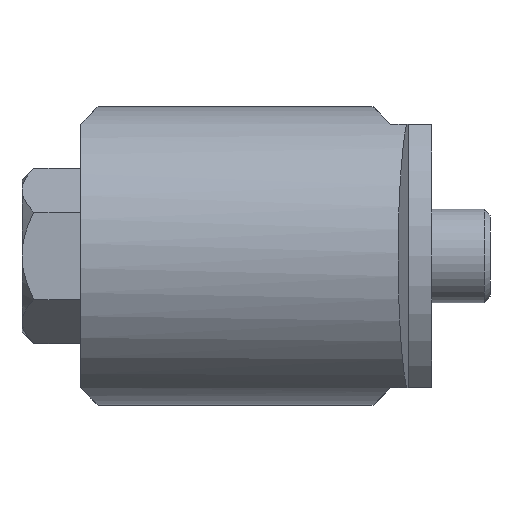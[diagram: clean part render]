
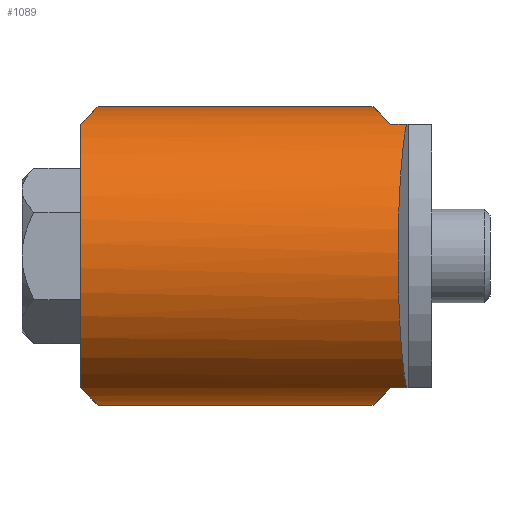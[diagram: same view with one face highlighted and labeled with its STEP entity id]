
A CAD part, left-side view. The second image highlights one B-rep face of the part: STEP entity #1089.
In plain terms, the highlighted cylindrical face has radius 12.75 mm (diameter 25.5 mm), a partial arc.
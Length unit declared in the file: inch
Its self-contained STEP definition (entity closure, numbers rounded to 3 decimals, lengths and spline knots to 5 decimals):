
#25=ELLIPSE('',#1209,0.70989,0.50197);
#26=ELLIPSE('',#1212,0.70989,0.50197);
#27=ELLIPSE('',#1215,0.70989,0.50197);
#28=ELLIPSE('',#1217,0.70989,0.50197);
#29=ELLIPSE('',#1221,0.50473,0.50197);
#122=FACE_OUTER_BOUND('',#190,.T.);
#190=EDGE_LOOP('',(#817,#818,#819,#820,#821,#822,#823,#824,#825,#826));
#244=LINE('',#1749,#306);
#257=LINE('',#1779,#319);
#266=LINE('',#1804,#328);
#267=LINE('',#1806,#329);
#306=VECTOR('',#1431,0.3937);
#319=VECTOR('',#1450,0.3937);
#328=VECTOR('',#1477,0.3937);
#329=VECTOR('',#1480,0.3937);
#396=CIRCLE('',#1223,0.50197);
#464=VERTEX_POINT('',#1739);
#465=VERTEX_POINT('',#1740);
#468=VERTEX_POINT('',#1748);
#473=VERTEX_POINT('',#1760);
#474=VERTEX_POINT('',#1761);
#481=VERTEX_POINT('',#1776);
#482=VERTEX_POINT('',#1778);
#484=VERTEX_POINT('',#1784);
#486=VERTEX_POINT('',#1790);
#487=VERTEX_POINT('',#1791);
#580=EDGE_CURVE('',#464,#465,#25,.T.);
#584=EDGE_CURVE('',#465,#468,#244,.T.);
#590=EDGE_CURVE('',#473,#474,#26,.T.);
#598=EDGE_CURVE('',#482,#481,#257,.T.);
#601=EDGE_CURVE('',#481,#484,#27,.T.);
#604=EDGE_CURVE('',#486,#487,#28,.T.);
#610=EDGE_CURVE('',#468,#482,#29,.T.);
#611=EDGE_CURVE('',#484,#486,#266,.T.);
#612=EDGE_CURVE('',#473,#487,#396,.T.);
#613=EDGE_CURVE('',#464,#474,#267,.T.);
#817=ORIENTED_EDGE('',*,*,#580,.T.);
#818=ORIENTED_EDGE('',*,*,#584,.T.);
#819=ORIENTED_EDGE('',*,*,#610,.T.);
#820=ORIENTED_EDGE('',*,*,#598,.T.);
#821=ORIENTED_EDGE('',*,*,#601,.T.);
#822=ORIENTED_EDGE('',*,*,#611,.T.);
#823=ORIENTED_EDGE('',*,*,#604,.T.);
#824=ORIENTED_EDGE('',*,*,#612,.F.);
#825=ORIENTED_EDGE('',*,*,#590,.T.);
#826=ORIENTED_EDGE('',*,*,#613,.F.);
#985=CYLINDRICAL_SURFACE('',#1222,0.50197);
#1089=ADVANCED_FACE('',(#122),#985,.T.);
#1209=AXIS2_PLACEMENT_3D('',#1741,#1424,#1425);
#1212=AXIS2_PLACEMENT_3D('',#1762,#1439,#1440);
#1215=AXIS2_PLACEMENT_3D('',#1785,#1455,#1456);
#1217=AXIS2_PLACEMENT_3D('',#1792,#1461,#1462);
#1221=AXIS2_PLACEMENT_3D('',#1802,#1473,#1474);
#1222=AXIS2_PLACEMENT_3D('',#1803,#1475,#1476);
#1223=AXIS2_PLACEMENT_3D('',#1805,#1478,#1479);
#1424=DIRECTION('center_axis',(0.,0.707,0.707));
#1425=DIRECTION('ref_axis',(0.,-0.707,0.707));
#1431=DIRECTION('',(0.,-1.,0.));
#1439=DIRECTION('center_axis',(0.,-0.707,0.707));
#1440=DIRECTION('ref_axis',(0.,0.707,0.707));
#1450=DIRECTION('',(0.,1.,0.));
#1455=DIRECTION('center_axis',(0.,0.707,-0.707));
#1456=DIRECTION('ref_axis',(0.,0.707,0.707));
#1461=DIRECTION('center_axis',(0.,-0.707,-0.707));
#1462=DIRECTION('ref_axis',(0.,-0.707,0.707));
#1473=DIRECTION('center_axis',(0.105,0.995,0.));
#1474=DIRECTION('ref_axis',(-0.995,0.105,0.));
#1475=DIRECTION('center_axis',(0.,-1.,0.));
#1476=DIRECTION('ref_axis',(0.,0.,1.));
#1477=DIRECTION('',(0.,1.,0.));
#1478=DIRECTION('center_axis',(0.,1.,0.));
#1479=DIRECTION('ref_axis',(0.,0.,1.));
#1480=DIRECTION('',(0.,1.,0.));
#1739=CARTESIAN_POINT('',(-1.86193,0.66872,-0.02886));
#1740=CARTESIAN_POINT('',(-2.09815,0.60966,0.03019));
#1741=CARTESIAN_POINT('Origin',(-1.86193,0.16675,0.4731));
#1748=CARTESIAN_POINT('',(-2.09815,0.5562,0.03019));
#1749=CARTESIAN_POINT('',(-2.09815,1.65297,0.03019));
#1760=CARTESIAN_POINT('',(-2.09815,1.65297,0.03019));
#1761=CARTESIAN_POINT('',(-1.86193,1.59392,-0.02886));
#1762=CARTESIAN_POINT('Origin',(-1.86193,2.09589,0.4731));
#1776=CARTESIAN_POINT('',(-2.09815,0.60966,0.91602));
#1778=CARTESIAN_POINT('',(-2.09815,0.5562,0.91602));
#1779=CARTESIAN_POINT('',(-2.09815,1.65297,0.91602));
#1784=CARTESIAN_POINT('',(-1.86193,0.66872,0.97507));
#1785=CARTESIAN_POINT('Origin',(-1.86193,0.16675,0.4731));
#1790=CARTESIAN_POINT('',(-1.86193,1.59392,0.97507));
#1791=CARTESIAN_POINT('',(-2.09815,1.65297,0.91602));
#1792=CARTESIAN_POINT('Origin',(-1.86193,2.09589,0.4731));
#1802=CARTESIAN_POINT('Origin',(-1.86193,0.53137,0.4731));
#1803=CARTESIAN_POINT('Origin',(-1.86193,1.65297,0.4731));
#1804=CARTESIAN_POINT('',(-1.86193,1.65297,0.97507));
#1805=CARTESIAN_POINT('Origin',(-1.86193,1.65297,0.4731));
#1806=CARTESIAN_POINT('',(-1.86193,1.65297,-0.02886));
